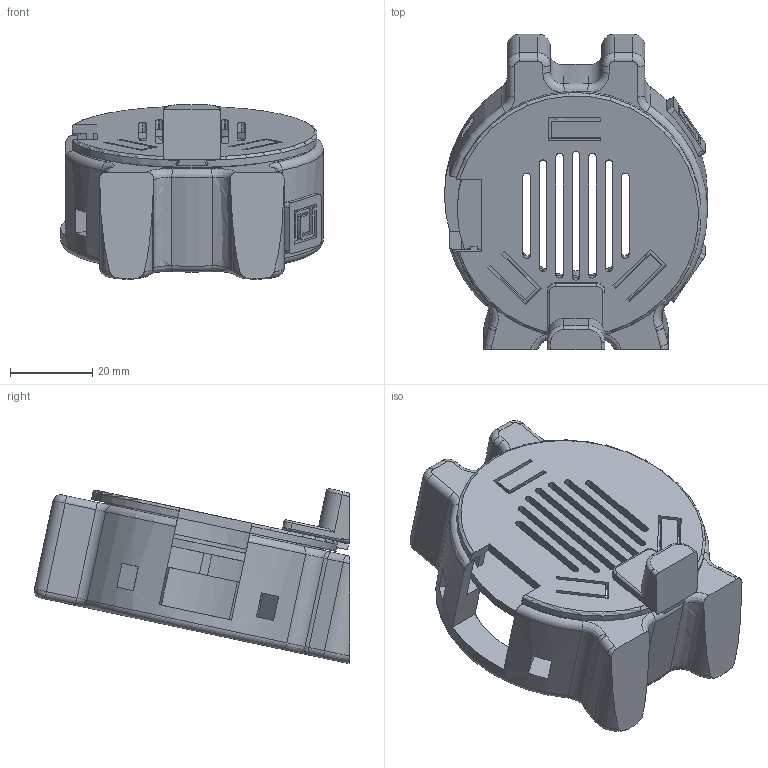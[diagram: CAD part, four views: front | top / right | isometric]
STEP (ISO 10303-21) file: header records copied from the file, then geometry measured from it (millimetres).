
FILE_DESCRIPTION(('Open CASCADE Model'),'2;1');
FILE_NAME('Open CASCADE Shape Model','2026-10-13T21:31:36',('Author'),( 'Open CASCADE'),'Open CASCADE STEP processor 7.9','Open CASCADE 7.9' ,'Unknown');
FILE_SCHEMA(('AUTOMOTIVE_DESIGN { 1 0 10303 214 1 1 1 1 }'));
Length unit declared in the file: millimetre
Products named in the file (7): Oisy 0.4.1 with experimental button inserts; body; board-frame; back; rear-foot; button-lower; button-upper
Assembly tree (6 placements, depth 2):
  Oisy 0.4.1 with experimental button inserts
    body
    board-frame
    back
    rear-foot
    button-lower
    button-upper
Bounding box: 64 x 76.8 x 42.42 mm (x, y, z)
Volume: 44519.8 mm3; surface area: 29736.6 mm2
Topology: 6 solids, 6 shells, 511 faces, 1388 edges, 901 vertices
Faces by surface type: plane 291, cylinder 146, torus 39, cone 15, bspline 12, revolution 8
Full cylindrical faces by diameter (mm): 3 x3, 3.9 x3, 6.3 x3, 34 x1, 46.5 x1, 49.46 x1
Entity records: 37121 total; most frequent: CARTESIAN_POINT 9081, DIRECTION 5312, LINE 3282, VECTOR 3282, ORIENTED_EDGE 2776, PCURVE 2776, DEFINITIONAL_REPRESENTATION 2776, EDGE_CURVE 1388
